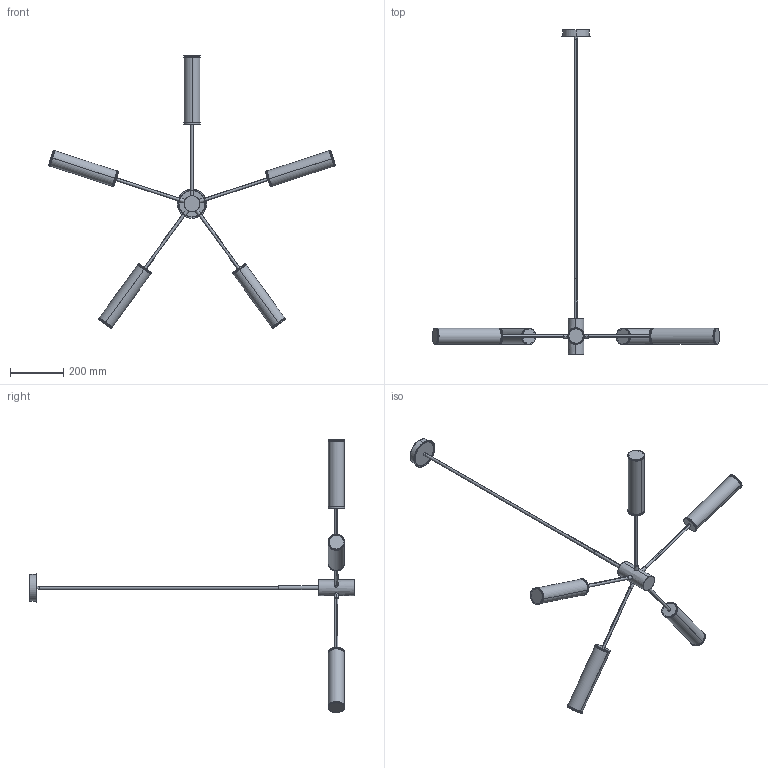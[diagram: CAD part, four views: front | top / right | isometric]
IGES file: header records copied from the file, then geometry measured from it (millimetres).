
Start section: SolidWorks IGES file using analytic representation for surfaces
Global section: file name: C:\Users\Agus\Desktop\Novedades Enero_2022 - 3D\C1298\C1298-5.IGS; native system: SolidWorks 2018; preprocessor: SolidWorks 2018; author: Agus; date: 220221.105728; units: millimetre
Bounding box: 1080.53 x 1221 x 1027.64 mm (x, y, z)
Surface area: 725642.4 mm2 (no closed solid volume)
Topology: 0 solids, 0 shells, 171 faces, 6120 edges, 6120 vertices
Faces by surface type: revolution 104, bspline 67
